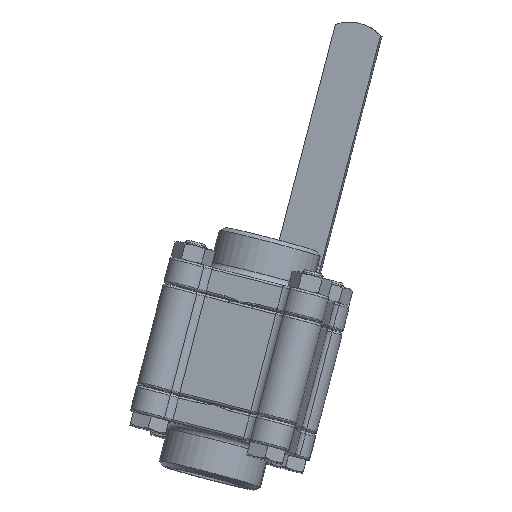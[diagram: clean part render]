
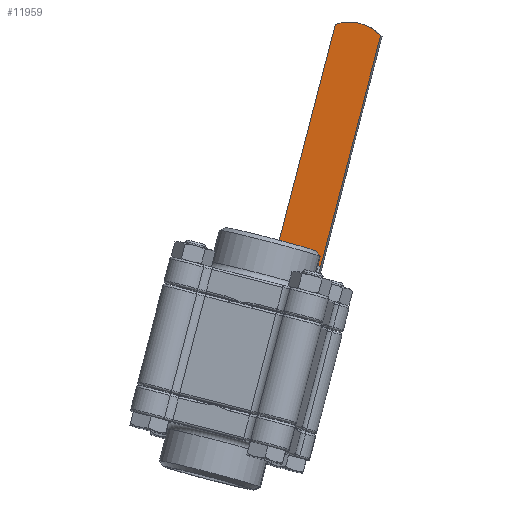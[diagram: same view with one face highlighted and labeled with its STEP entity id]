
A CAD part, front view. The second image highlights one B-rep face of the part: STEP entity #11959.
In plain terms, the highlighted planar face has unit normal (-0.168, -0.983, 0.074) as drawn and (0, -1, 0) by its records, which use the part's own axes.
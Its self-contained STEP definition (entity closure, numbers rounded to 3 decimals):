
#4278 = CARTESIAN_POINT ( 'NONE',  ( 53.642, 24., 11.05 ) ) ;
#4308 = CARTESIAN_POINT ( 'NONE',  ( 164.67, 24., 11.05 ) ) ;
#4328 = DIRECTION ( 'NONE',  ( 1., 0., 0. ) ) ;
#4329 = VECTOR ( 'NONE', #4328, 1000. ) ;
#4330 = CARTESIAN_POINT ( 'NONE',  ( 168., 24., 11.05 ) ) ;
#4331 = LINE ( 'NONE', #4330, #4329 ) ;
#4361 = CARTESIAN_POINT ( 'NONE',  ( 164.67, 24., -11.05 ) ) ;
#4395 = CARTESIAN_POINT ( 'NONE',  ( 53.642, 24., -11.05 ) ) ;
#4421 = DIRECTION ( 'NONE',  ( 1., 0., 0. ) ) ;
#4422 = VECTOR ( 'NONE', #4421, 1000. ) ;
#4423 = CARTESIAN_POINT ( 'NONE',  ( 168., 24., -11.05 ) ) ;
#4429 = LINE ( 'NONE', #4423, #4422 ) ;
#6565 = DIRECTION ( 'NONE',  ( -1., 0., 0. ) ) ;
#6566 = DIRECTION ( 'NONE',  ( 0., 1., 0. ) ) ;
#6567 = CARTESIAN_POINT ( 'NONE',  ( 148., 24., 0. ) ) ;
#6568 = AXIS2_PLACEMENT_3D ( 'NONE', #6567, #6566, #6565 ) ;
#6569 = CIRCLE ( 'NONE', #6568, 20. ) ;
#6575 = DIRECTION ( 'NONE',  ( 0., 0., -1. ) ) ;
#6576 = VECTOR ( 'NONE', #6575, 1000. ) ;
#6577 = CARTESIAN_POINT ( 'NONE',  ( 53.642, 24., 11.05 ) ) ;
#6581 = LINE ( 'NONE', #6577, #6576 ) ;
#6601 = DIRECTION ( 'NONE',  ( -1., 0., 0. ) ) ;
#6602 = DIRECTION ( 'NONE',  ( 0., 1., 0. ) ) ;
#6603 = AXIS2_PLACEMENT_3D ( 'NONE', #6605, #6602, #6601 ) ;
#6605 = CARTESIAN_POINT ( 'NONE',  ( 168., 24., 11.05 ) ) ;
#6606 = PLANE ( 'NONE',  #6603 ) ;
#6607 = FACE_OUTER_BOUND ( 'NONE', #10879, .T. ) ;
#10810 = VERTEX_POINT ( 'NONE', #4278 ) ;
#10830 = VERTEX_POINT ( 'NONE', #4308 ) ;
#10853 = EDGE_CURVE ( 'NONE', #10810, #10830, #4331, .T. ) ;
#10870 = VERTEX_POINT ( 'NONE', #4361 ) ;
#10873 = ORIENTED_EDGE ( 'NONE', *, *, #11947, .F. ) ;
#10879 = EDGE_LOOP ( 'NONE', ( #10873, #11938, #11941, #11943 ) ) ;
#10890 = VERTEX_POINT ( 'NONE', #4395 ) ;
#10904 = EDGE_CURVE ( 'NONE', #10890, #10870, #4429, .T. ) ;
#11938 = ORIENTED_EDGE ( 'NONE', *, *, #10853, .F. ) ;
#11939 = EDGE_CURVE ( 'NONE', #10810, #10890, #6581, .T. ) ;
#11941 = ORIENTED_EDGE ( 'NONE', *, *, #11939, .T. ) ;
#11943 = ORIENTED_EDGE ( 'NONE', *, *, #10904, .T. ) ;
#11947 = EDGE_CURVE ( 'NONE', #10830, #10870, #6569, .T. ) ;
#11959 = ADVANCED_FACE ( 'NONE', ( #6607 ), #6606, .F. ) ;
